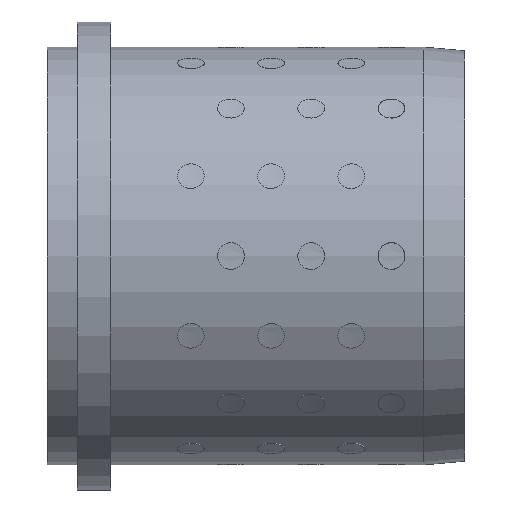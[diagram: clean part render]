
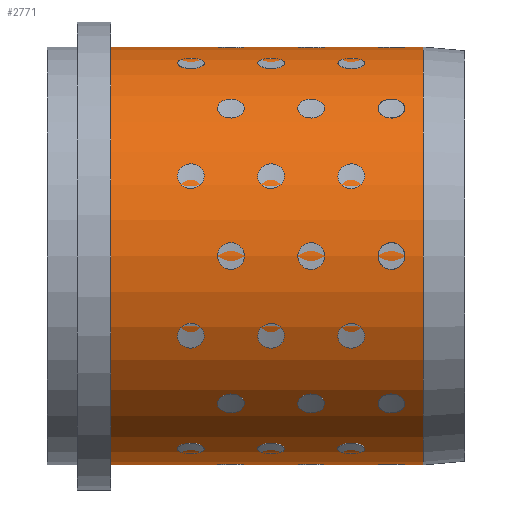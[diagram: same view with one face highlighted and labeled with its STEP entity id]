
A CAD part, left-side view. The second image highlights one B-rep face of the part: STEP entity #2771.
In plain terms, the highlighted cylindrical face has radius 62.5 mm (diameter 125 mm), a full revolution.
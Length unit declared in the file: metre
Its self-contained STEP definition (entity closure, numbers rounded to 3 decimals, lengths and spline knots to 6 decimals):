
#2771 = ADVANCED_FACE( '', ( #2964, #2965 ), #2966, .T. );
#2964 = FACE_OUTER_BOUND( '', #3389, .T. );
#2965 = FACE_OUTER_BOUND( '', #3390, .T. );
#2966 = CYLINDRICAL_SURFACE( '', #3391, 0.0625 );
#3389 = EDGE_LOOP( '', ( #3826 ) );
#3390 = EDGE_LOOP( '', ( #3827 ) );
#3391 = AXIS2_PLACEMENT_3D( '', #3828, #3829, #3830 );
#3826 = ORIENTED_EDGE( '', *, *, #4586, .T. );
#3827 = ORIENTED_EDGE( '', *, *, #4585, .F. );
#3828 = CARTESIAN_POINT( '', ( 0., 0., 0. ) );
#3829 = DIRECTION( '', ( 0., 1., 0. ) );
#3830 = DIRECTION( '', ( 0., 0., -1. ) );
#4585 = EDGE_CURVE( '', #4714, #4714, #4715, .T. );
#4586 = EDGE_CURVE( '', #4716, #4716, #4717, .T. );
#4714 = VERTEX_POINT( '', #4960 );
#4715 = CIRCLE( '', #4961, 0.0625 );
#4716 = VERTEX_POINT( '', #4962 );
#4717 = CIRCLE( '', #4963, 0.0625 );
#4960 = CARTESIAN_POINT( '', ( 0., 0.0125, -0.0625 ) );
#4961 = AXIS2_PLACEMENT_3D( '', #12492, #12493, #12494 );
#4962 = CARTESIAN_POINT( '', ( 0., 0.106, -0.0625 ) );
#4963 = AXIS2_PLACEMENT_3D( '', #12495, #12496, #12497 );
#12492 = CARTESIAN_POINT( '', ( 0., 0.0125, 0. ) );
#12493 = DIRECTION( '', ( 0., -1., 0. ) );
#12494 = DIRECTION( '', ( 0., 0., -1. ) );
#12495 = CARTESIAN_POINT( '', ( 0., 0.106, 0. ) );
#12496 = DIRECTION( '', ( 0., -1., 0. ) );
#12497 = DIRECTION( '', ( 0., 0., -1. ) );
